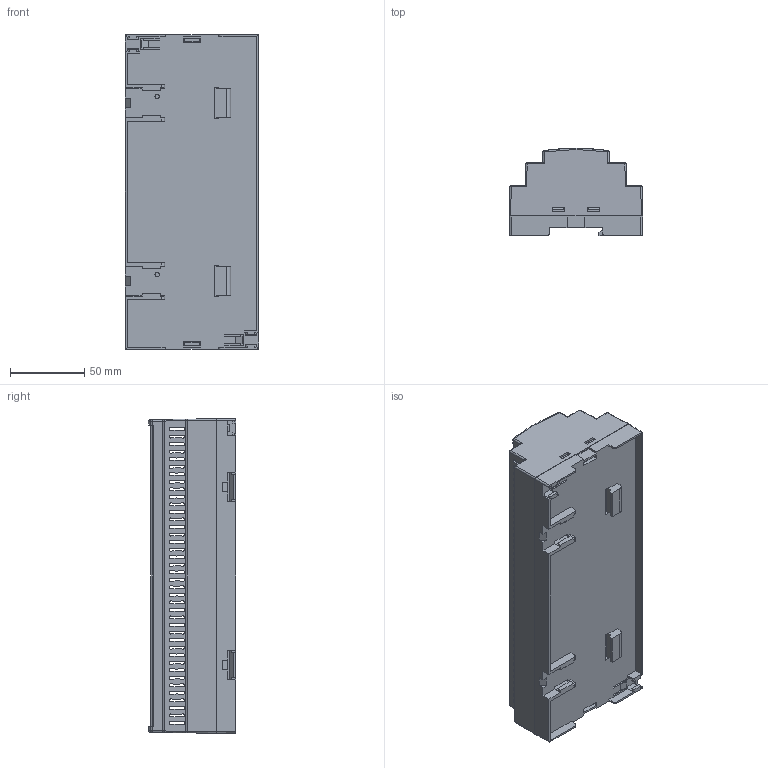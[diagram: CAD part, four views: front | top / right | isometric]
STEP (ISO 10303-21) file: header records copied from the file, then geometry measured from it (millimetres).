
FILE_DESCRIPTION (( 'STEP AP203' ), '1' );
FILE_NAME ('RT-212-B.STEP', '2025-08-14T13:59:19', ( '' ), ( '' ), 'SwSTEP 2.0', 'SolidWorks 2021', '' );
FILE_SCHEMA (( 'CONFIG_CONTROL_DESIGN' ));
Length unit declared in the file: millimetre
Products named in the file (4): RT-212-P-2_B; RT-212-B; RT-212-P-1; RT-212-25_RT-212-25-M3
Assembly tree (3 placements, depth 2):
  RT-212-B
    RT-212-P-1
    RT-212-P-2_B
    RT-212-25_RT-212-25-M3
Bounding box: 90 x 58.9 x 212.1 mm (x, y, z)
Volume: 136782 mm3; surface area: 145847.5 mm2
Topology: 3 solids, 3 shells, 1275 faces, 3785 edges, 2508 vertices
Faces by surface type: cylinder 788, plane 436, bspline 23, cone 16, sphere 12
Entity records: 43843 total; most frequent: CARTESIAN_POINT 13687, ORIENTED_EDGE 7554, DIRECTION 4766, EDGE_CURVE 3777, VERTEX_POINT 2508, LINE 2072, VECTOR 2072, EDGE_LOOP 1477
